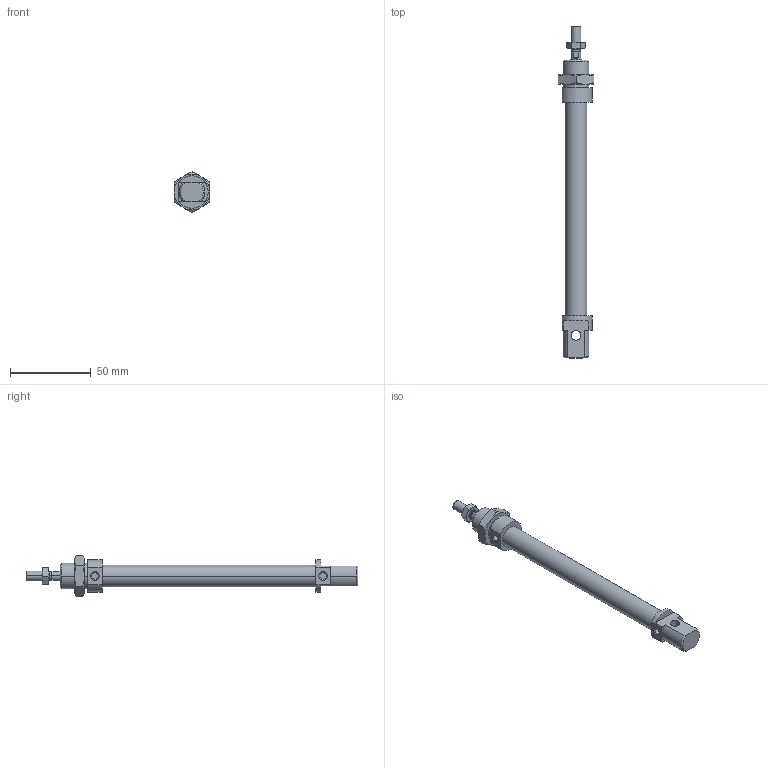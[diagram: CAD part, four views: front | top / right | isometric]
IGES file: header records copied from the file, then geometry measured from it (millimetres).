
Global section: file name: No Iges File Name specified; native system: AutoDesk Inventor R6.0; preprocessor: AutoDesk Inventor Iges Exporter R6.0; author: No Author specified; organization: No Organization specified; date: 20030407.191034; units: millimetre
Bounding box: 22 x 205 x 25.4 mm (x, y, z)
Volume: 31116.1 mm3; surface area: 16122.1 mm2
Topology: 4 solids, 4 shells, 121 faces, 268 edges, 162 vertices
Faces by surface type: plane 39, cone 38, bspline 20, cylinder 18, revolution 6
